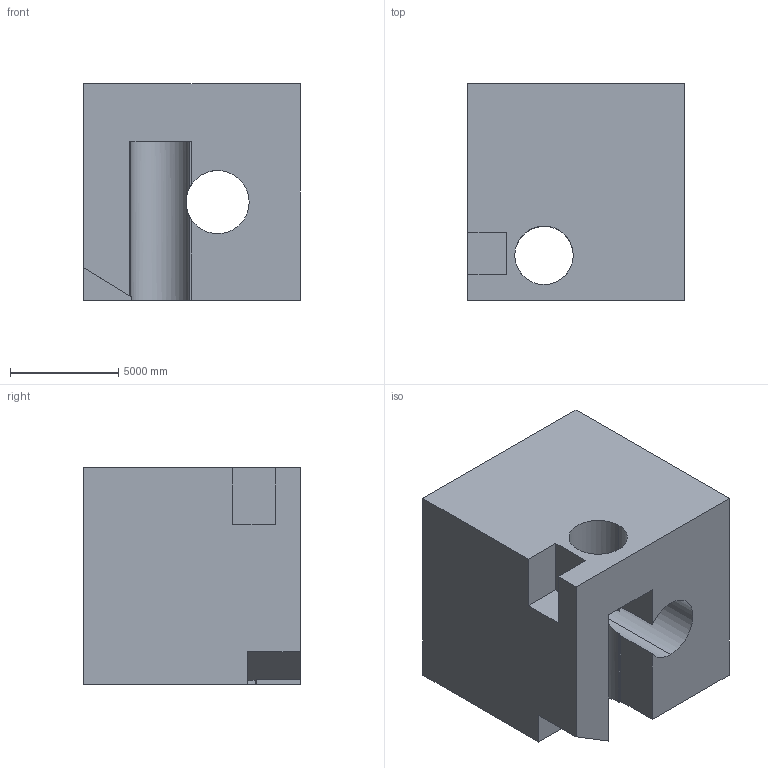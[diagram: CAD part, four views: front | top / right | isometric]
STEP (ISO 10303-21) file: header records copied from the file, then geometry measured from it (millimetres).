
FILE_DESCRIPTION (( 'STEP AP203' ), '1' );
FILE_NAME ('472.STEP', '2022-07-29T11:25:06', ( 'user' ), ( '' ), 'SwSTEP 2.0', 'SolidWorks 2021', '' );
FILE_SCHEMA (( 'CONFIG_CONTROL_DESIGN' ));
Length unit declared in the file: centimetre
Products named in the file (1): 472
Bounding box: 10000 x 10000 x 10000 mm (x, y, z)
Volume: 840793632803.4 mm3; surface area: 729090857.5 mm2
Topology: 1 solids, 1 shells, 24 faces, 72 edges, 48 vertices
Faces by surface type: plane 19, cylinder 5
Entity records: 1018 total; most frequent: CARTESIAN_POINT 282, ORIENTED_EDGE 144, DIRECTION 129, EDGE_CURVE 72, LINE 55, VECTOR 55, VERTEX_POINT 48, AXIS2_PLACEMENT_3D 37
